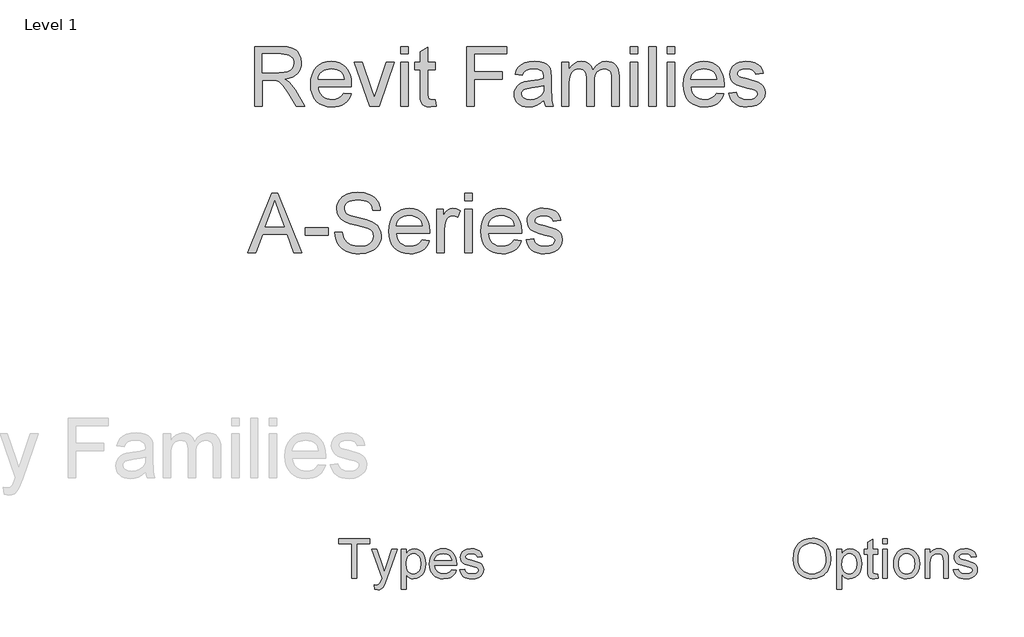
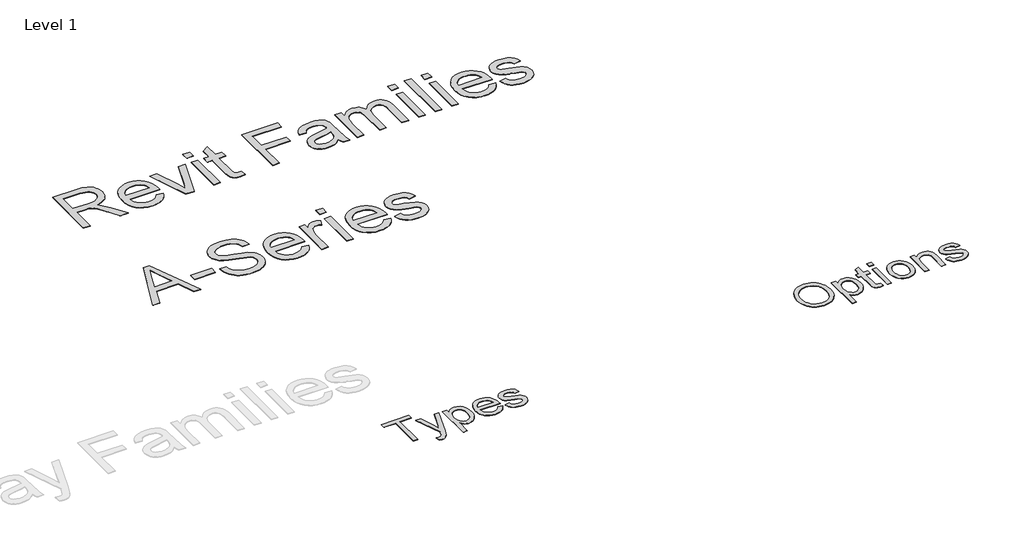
# One storey, part 9 of 9: 3 proxies.
"""IFC4 building model written with IfcOpenShell, lengths in millimetres."""

from ifc_helpers import new_model, si_unit, origin, origin_with_axes, place, context, project, spatial, polyline, outline, extrude, element, save

model = new_model("IFC4")

# Units and contexts
model_context = context("Model", 3, world=origin())
ifc_project = project(units=[si_unit("LENGTHUNIT", "METRE", prefix="MILLI")], contexts=[model_context])

# Site, building, storey
site = spatial("IfcSite", under=ifc_project)
building = spatial("IfcBuilding", under=site)
storey = spatial("IfcBuildingStorey", under=building, Name="Level 1", Elevation=0.0)

# Proxies
placement = place(None, origin())
element("IfcBuildingElementProxy", 1, Name="400mm Arial", ObjectType="400mm Arial", at=placement, inside=storey, context=model_context, shape_type="SweptSolid", body=[
    extrude(outline(polyline([(-10345.9583027, 17351.3054836), (-10345.9583027, 17694.0933624), (-10474.5037572, 17694.0933624), (-10474.5037572, 17743.0630593), (-10168.4431512, 17743.0630593), (-10168.4431512, 17694.0933624), (-10296.9886057, 17694.0933624), (-10296.9886057, 17351.3054836), (-10345.9583027, 17351.3054836)])), origin_with_axes(), (0.0, 0.0, 1.0), 5.0),
    extrude(outline(polyline([(-10119.4734542, 17241.1236654), (-10125.5946663, 17288.2761275), (-10100.7272421, 17283.9721502), (-10087.6479334, 17285.3231209), (-10077.4857648, 17289.3760328), (-10063.2348179, 17304.4399533), (-10049.8446663, 17340.4977184), (-10046.0189088, 17352.3575669), (-10150.0795148, 17639.0024533), (-10098.4317875, 17639.0024533), (-10043.2452345, 17479.2770745), (-10024.0208027, 17415.386923), (-10004.7963709, 17471.8168472), (-9948.0795148, 17639.0024533), (-9896.8143633, 17639.0024533), (-9996.9535679, 17344.4191199), (-10022.9687194, 17280.5289684), (-10036.2871379, 17260.1328983), (-10051.3749694, 17246.0015063), (-10068.9017213, 17237.7522165), (-10089.5369012, 17235.0024533), (-10119.4734542, 17241.1236654)])), origin_with_axes(), (0.0, 0.0, 1.0), 5.0),
    extrude(outline(polyline([(-9856.261333, 17241.1236654), (-9856.261333, 17639.0024533), (-9807.291636, 17639.0024533), (-9807.291636, 17590.9891957), (-9791.3190982, 17614.6730262), (-9773.4336815, 17631.590048), (-9752.5833027, 17641.740261), (-9727.7158785, 17645.1236654), (-9694.5991644, 17640.3892904), (-9665.6429618, 17626.1861654), (-9642.0667307, 17603.3750858), (-9625.0899315, 17572.8168472), (-9614.832119, 17536.7351711), (-9611.4128482, 17497.353779), (-9615.2744722, 17455.4736891), (-9626.8593444, 17418.0171313), (-9645.7968444, 17386.885029), (-9671.7163519, 17363.9783055), (-9701.9039703, 17349.88278), (-9733.6458027, 17345.1842715), (-9756.1579949, 17348.328566), (-9776.2551777, 17357.7614495), (-9793.4591313, 17372.000441), (-9807.291636, 17389.5630593), (-9807.291636, 17241.1236654), (-9856.261333, 17241.1236654)]), holes=[polyline([(-9807.291636, 17492.8585139), (-9801.9953529, 17448.9579457), (-9795.374999, 17431.9572355), (-9786.1065035, 17418.2562411), (-9762.6617828, 17400.1795366), (-9749.2447314, 17395.6603605), (-9734.697886, 17394.1539684), (-9719.9418195, 17395.7141602), (-9706.2796805, 17400.3947355), (-9682.2371853, 17419.1170366), (-9672.6757802, 17433.3141839), (-9665.8462052, 17450.9425574), (-9660.3825451, 17496.4929836), (-9665.7146947, 17540.1544419), (-9672.3798818, 17557.2866625), (-9681.7111436, 17571.2865442), (-9705.1199978, 17589.9371124), (-9718.3846166, 17594.5997544), (-9732.6893633, 17596.1539684), (-9746.9492769, 17594.5011216), (-9760.3663283, 17589.5425811), (-9784.6718444, 17569.7084192), (-9794.5680032, 17554.9882191), (-9801.6366881, 17537.2731682), (-9805.8778991, 17516.5632665), (-9807.291636, 17492.8585139)])]), origin_with_axes(), (0.0, 0.0, 1.0), 5.0),
    extrude(outline(polyline([(-9354.8958027, 17437.0024533), (-9306.8825451, 17430.8812411), (-9314.2441396, 17411.6508316), (-9324.1821427, 17394.7039211), (-9336.6965544, 17380.0405096), (-9351.7873747, 17367.6605972), (-9369.2991822, 17357.8272047), (-9389.0765555, 17350.8033529), (-9435.4279997, 17345.1842715), (-9465.8128837, 17347.6082475), (-9492.8860963, 17354.8801758), (-9516.6476375, 17367.0000563), (-9537.0975072, 17383.9678889), (-9553.5422871, 17405.3114317), (-9565.2885584, 17430.5584429), (-9572.3363212, 17459.7089223), (-9574.6855754, 17492.7628699), (-9572.3124102, 17526.937645), (-9565.1929144, 17557.0595082), (-9553.3270882, 17583.1284594), (-9536.7149315, 17605.1444987), (-9516.3188614, 17622.6353841), (-9493.1012951, 17635.1288737), (-9467.0622326, 17642.6249675), (-9438.2016739, 17645.1236654), (-9410.2706547, 17642.6309452), (-9385.0116881, 17635.1527847), (-9362.4247741, 17622.6891839), (-9342.5099125, 17605.2401427), (-9326.2534317, 17583.2719253), (-9314.6416597, 17557.2507961), (-9307.6745965, 17527.1767549), (-9305.3522421, 17493.0498018), (-9305.6391739, 17479.8509381), (-9525.7158785, 17479.8509381), (-9522.8794379, 17460.3096858), (-9517.2394343, 17443.1953983), (-9508.7958678, 17428.5080759), (-9497.5487383, 17416.2477184), (-9469.1305328, 17399.6774059), (-9434.4715603, 17394.1539684), (-9408.4085868, 17396.7124438), (-9386.4583027, 17404.3878699), (-9368.620708, 17417.6584665), (-9354.8958027, 17437.0024533)]), holes=[polyline([(-9525.7158785, 17528.8206351), (-9354.3219391, 17528.8206351), (-9360.9452819, 17554.6923207), (-9373.9289466, 17573.199423), (-9387.2832317, 17583.2420366), (-9402.4786625, 17590.4153321), (-9438.3929618, 17596.1539684), (-9471.4020764, 17591.5750148), (-9498.6964656, 17577.838154), (-9517.6698321, 17556.4258671), (-9525.7158785, 17528.8206351)])]), origin_with_axes(), (0.0, 0.0, 1.0), 5.0),
    extrude(outline(polyline([(-9274.7461815, 17437.0024533), (-9225.7764845, 17443.1236654), (-9218.0532364, 17422.1776427), (-9203.1088709, 17406.7789684), (-9180.847744, 17397.3102184), (-9151.1742118, 17394.1539684), (-9121.8593444, 17397.0471976), (-9101.2480754, 17405.7268851), (-9089.0534732, 17418.3040631), (-9084.9886057, 17432.8897639), (-9089.0773841, 17445.371298), (-9101.3437194, 17454.8878699), (-9151.7480754, 17468.8518851), (-9225.4895527, 17492.8106919), (-9244.1520764, 17504.8498728), (-9257.6737383, 17520.7865442), (-9265.8871616, 17539.6044893), (-9268.6249694, 17560.2874911), (-9266.4251588, 17579.2608576), (-9259.8257269, 17596.775654), (-9249.4244485, 17612.1384618), (-9235.8190982, 17624.6558624), (-9204.6869959, 17639.1459192), (-9162.5558406, 17645.1236654), (-9130.6824978, 17642.7206114), (-9102.9696663, 17635.5114495), (-9080.6846285, 17624.2015536), (-9065.0946663, 17609.496298), (-9054.7651209, 17590.3077326), (-9048.261333, 17565.5479078), (-9097.23103, 17559.4266957), (-9103.4120196, 17574.8373254), (-9115.6424883, 17586.4461086), (-9134.0419911, 17593.7270035), (-9158.730083, 17596.1539684), (-9186.8494012, 17593.8346029), (-9205.5956133, 17586.8765063), (-9216.1403576, 17576.8338927), (-9219.6552724, 17565.260976), (-9213.8209921, 17551.010029), (-9195.5529997, 17540.2022639), (-9153.3740224, 17529.7770745), (-9081.4976019, 17506.7268851), (-9062.51228, 17495.7039211), (-9048.1178671, 17480.6160896), (-9039.0436483, 17461.4155688), (-9036.0189088, 17438.0545366), (-9039.56969, 17413.9044419), (-9050.2220338, 17391.1890063), (-9067.5694533, 17371.6895982), (-9091.2054618, 17357.1875858), (-9119.7551777, 17348.1851), (-9151.8437194, 17345.1842715), (-9178.1996024, 17346.630886), (-9201.2199031, 17350.9707298), (-9220.9046214, 17358.2038027), (-9237.2537572, 17368.3301048), (-9250.6080423, 17381.3018141), (-9261.308208, 17397.0711086), (-9269.3542544, 17415.6379883), (-9274.7461815, 17437.0024533)])), origin_with_axes(), (0.0, 0.0, 1.0), 5.0),
])
element("IfcBuildingElementProxy", 2, Name="400mm Arial", ObjectType="400mm Arial", at=placement, inside=storey, context=model_context, shape_type="SweptSolid", body=[
    extrude(outline(polyline([(-5962.261333, 17542.0194987), (-5958.9974836, 17587.9704339), (-5949.2059353, 17628.6489968), (-5932.8866881, 17664.0551876), (-5910.0397421, 17694.1890063), (-5882.0340011, 17718.2494348), (-5850.238369, 17735.4354552), (-5814.6528458, 17745.7470674), (-5775.2774315, 17749.1842715), (-5748.9215484, 17747.57028), (-5723.892725, 17742.7283055), (-5700.1909613, 17734.6583482), (-5677.8162572, 17723.3604078), (-5657.3962762, 17709.1752161), (-5639.5586815, 17692.4435044), (-5624.3034732, 17673.1652729), (-5611.6306512, 17651.3405215), (-5601.671726, 17627.4654031), (-5594.558208, 17602.0360707), (-5588.8673936, 17546.5147639), (-5594.8570953, 17490.2522165), (-5602.3442224, 17464.4701971), (-5612.8262004, 17440.2543472), (-5626.0549528, 17418.2442857), (-5641.7824031, 17399.0796313), (-5660.0085513, 17382.7603841), (-5680.7333974, 17369.2865442), (-5726.4153339, 17351.2098396), (-5775.5643633, 17345.1842715), (-5802.3805328, 17346.8490738), (-5827.7381322, 17351.8434807), (-5851.6371616, 17360.1674923), (-5874.0776209, 17371.8211086), (-5894.473691, 17386.3530096), (-5912.2395527, 17403.3118756), (-5927.3752061, 17422.6977066), (-5939.8806512, 17444.5105025), (-5956.6661625, 17491.91403), (-5962.261333, 17542.0194987)]), holes=[polyline([(-5913.291636, 17541.541279), (-5910.843749, 17509.0761393), (-5903.5000877, 17480.2574249), (-5891.2606524, 17455.0851356), (-5874.1254429, 17433.5592715), (-5853.2959862, 17416.3194514), (-5829.9738093, 17404.0052942), (-5804.1589123, 17396.6167999), (-5775.8512951, 17394.1539684), (-5747.0594805, 17396.6407108), (-5720.9397184, 17404.1009381), (-5697.4920089, 17416.5346502), (-5676.7163519, 17433.9418472), (-5659.7066751, 17455.92202), (-5647.5569059, 17482.0746597), (-5640.2670444, 17512.3997662), (-5637.8370906, 17546.8973396), (-5641.9976019, 17590.2479552), (-5654.479136, 17627.7164684), (-5674.9588946, 17658.3583955), (-5703.1140792, 17681.2292525), (-5737.0796332, 17695.468244), (-5774.9904997, 17700.2145745), (-5802.3147776, 17697.9280866), (-5827.6663993, 17691.0686228), (-5851.0453647, 17679.6361831), (-5872.4516739, 17663.6307677), (-5890.3191573, 17642.2812471), (-5903.0816455, 17614.8164921), (-5910.7391384, 17581.2365027), (-5913.291636, 17541.541279)])]), origin_with_axes(), (0.0, 0.0, 1.0), 5.0),
    extrude(outline(polyline([(-5527.6552724, 17241.1236654), (-5527.6552724, 17639.0024533), (-5478.6855754, 17639.0024533), (-5478.6855754, 17590.9891957), (-5462.7130375, 17614.6730262), (-5444.8276209, 17631.590048), (-5423.9772421, 17641.740261), (-5399.1098179, 17645.1236654), (-5365.9931038, 17640.3892904), (-5337.0369012, 17626.1861654), (-5313.4606701, 17603.3750858), (-5296.4838709, 17572.8168472), (-5286.2260584, 17536.7351711), (-5282.8067875, 17497.353779), (-5286.6684116, 17455.4736891), (-5298.2532838, 17418.0171313), (-5317.1907838, 17386.885029), (-5343.1102913, 17363.9783055), (-5373.2979097, 17349.88278), (-5405.0397421, 17345.1842715), (-5427.5519343, 17348.328566), (-5447.6491171, 17357.7614495), (-5464.8530707, 17372.000441), (-5478.6855754, 17389.5630593), (-5478.6855754, 17241.1236654), (-5527.6552724, 17241.1236654)]), holes=[polyline([(-5478.6855754, 17492.8585139), (-5473.3892923, 17448.9579457), (-5466.7689384, 17431.9572355), (-5457.5004429, 17418.2562411), (-5434.0557222, 17400.1795366), (-5420.6386708, 17395.6603605), (-5406.0918254, 17394.1539684), (-5391.3357589, 17395.7141602), (-5377.6736199, 17400.3947355), (-5353.6311247, 17419.1170366), (-5344.0697196, 17433.3141839), (-5337.2401446, 17450.9425574), (-5331.7764845, 17496.4929836), (-5337.1086341, 17540.1544419), (-5343.7738212, 17557.2866625), (-5353.105083, 17571.2865442), (-5376.5139372, 17589.9371124), (-5389.778556, 17594.5997544), (-5404.0833027, 17596.1539684), (-5418.3432163, 17594.5011216), (-5431.7602677, 17589.5425811), (-5456.0657838, 17569.7084192), (-5465.9619426, 17554.9882191), (-5473.0306275, 17537.2731682), (-5477.2718384, 17516.5632665), (-5478.6855754, 17492.8585139)])]), origin_with_axes(), (0.0, 0.0, 1.0), 5.0),
    extrude(outline(polyline([(-5123.6552724, 17392.1454457), (-5117.5340603, 17349.8708245), (-5154.1656891, 17345.1842715), (-5177.6701872, 17347.2167052), (-5195.1969391, 17353.3140063), (-5207.5828292, 17362.7110233), (-5215.6647421, 17374.6426048), (-5220.1121853, 17395.1343188), (-5221.5946663, 17430.2117336), (-5221.5946663, 17590.0327563), (-5258.3219391, 17590.0327563), (-5258.3219391, 17639.0024533), (-5221.5946663, 17639.0024533), (-5221.5946663, 17708.918173), (-5172.6249694, 17737.7069987), (-5172.6249694, 17639.0024533), (-5123.6552724, 17639.0024533), (-5123.6552724, 17590.0327563), (-5172.6249694, 17590.0327563), (-5172.6249694, 17431.6463927), (-5170.042583, 17406.3963927), (-5161.6737383, 17397.4536843), (-5144.9838709, 17394.1539684), (-5123.6552724, 17392.1454457)])), origin_with_axes(), (0.0, 0.0, 1.0), 5.0),
    extrude(outline(polyline([(-5074.6855754, 17351.3054836), (-5074.6855754, 17639.0024533), (-5025.7158785, 17639.0024533), (-5025.7158785, 17351.3054836), (-5074.6855754, 17351.3054836)])), origin_with_axes(), (0.0, 0.0, 1.0), 5.0),
    extrude(outline(polyline([(-5074.6855754, 17694.0933624), (-5074.6855754, 17743.0630593), (-5025.7158785, 17743.0630593), (-5025.7158785, 17694.0933624), (-5074.6855754, 17694.0933624)])), origin_with_axes(), (0.0, 0.0, 1.0), 5.0),
    extrude(outline(polyline([(-4964.5037572, 17495.1539684), (-4961.8556157, 17532.4132606), (-4953.911191, 17564.5197355), (-4940.6704831, 17591.4733931), (-4922.1334921, 17613.2742336), (-4903.4709684, 17627.20836), (-4882.871655, 17637.1613074), (-4860.3355518, 17643.1330759), (-4835.8626588, 17645.1236654), (-4808.8462348, 17642.6996893), (-4784.4181749, 17635.427761), (-4762.5784791, 17623.3078806), (-4743.3271474, 17606.340048), (-4727.6146415, 17585.0981268), (-4716.391423, 17560.1559807), (-4709.6574919, 17531.5136098), (-4707.4128482, 17499.1710139), (-4711.3820716, 17449.6991862), (-4723.2897421, 17412.0393851), (-4742.7891502, 17383.8363785), (-4769.5335868, 17362.7349343), (-4801.2993302, 17349.5719372), (-4835.8626588, 17345.1842715), (-4863.273614, 17347.5992809), (-4887.9288283, 17354.8443093), (-4909.8283015, 17366.9193567), (-4928.9720338, 17383.824423), (-4944.5171628, 17405.2725764), (-4955.6208264, 17430.9768851), (-4962.2830245, 17460.9373491), (-4964.5037572, 17495.1539684)]), holes=[polyline([(-4915.5340603, 17495.2496124), (-4914.1173344, 17471.4970378), (-4909.8671569, 17450.9306019), (-4902.7835276, 17433.5503048), (-4892.8664466, 17419.3561465), (-4880.8033548, 17408.3301936), (-4867.2816929, 17400.4545129), (-4852.3014608, 17395.7291045), (-4835.8626588, 17394.1539684), (-4819.5075451, 17395.7380712), (-4804.5870906, 17400.4903794), (-4791.1012951, 17408.4108931), (-4779.0501588, 17419.4996124), (-4769.1330778, 17433.8342478), (-4762.0494485, 17451.4925101), (-4757.799271, 17472.4743993), (-4756.3825451, 17496.7799154), (-4757.8082376, 17519.7792939), (-4762.085315, 17539.8077326), (-4769.2137774, 17556.8652314), (-4779.1936247, 17570.9517904), (-4791.2895941, 17581.9777433), (-4804.766423, 17589.8534239), (-4819.6241112, 17594.5788323), (-4835.8626588, 17596.1539684), (-4852.3014608, 17594.58481), (-4867.2816929, 17589.8773349), (-4880.8033548, 17582.031543), (-4892.8664466, 17571.0474343), (-4902.7835276, 17556.8951202), (-4909.8671569, 17539.5447118), (-4914.1173344, 17518.9962092), (-4915.5340603, 17495.2496124)])]), origin_with_axes(), (0.0, 0.0, 1.0), 5.0),
    extrude(outline(polyline([(-4652.3219391, 17351.3054836), (-4652.3219391, 17639.0024533), (-4603.3522421, 17639.0024533), (-4603.3522421, 17598.8319987), (-4586.3395764, 17619.0846029), (-4565.9076398, 17633.5507487), (-4542.0564324, 17642.2304362), (-4514.7859542, 17645.1236654), (-4490.647815, 17642.7923444), (-4468.5421095, 17635.7983813), (-4450.1067402, 17625.0145271), (-4436.9796095, 17611.3135328), (-4428.0727677, 17594.7312648), (-4422.2982648, 17575.3035896), (-4419.7158785, 17527.9598396), (-4419.7158785, 17351.3054836), (-4468.6855754, 17351.3054836), (-4468.6855754, 17521.3604078), (-4470.0963235, 17546.6821408), (-4474.3285679, 17564.6871124), (-4482.1355044, 17577.5870887), (-4494.2703292, 17587.5938358), (-4509.8244249, 17594.0139353), (-4527.8891739, 17596.1539684), (-4556.5704002, 17591.3478605), (-4581.0193822, 17576.9295366), (-4590.7900084, 17565.1593543), (-4597.7690271, 17549.0732393), (-4601.9564384, 17528.6711914), (-4603.3522421, 17503.9532108), (-4603.3522421, 17351.3054836), (-4652.3219391, 17351.3054836)])), origin_with_axes(), (0.0, 0.0, 1.0), 5.0),
    extrude(outline(polyline([(-4370.7461815, 17437.0024533), (-4321.7764845, 17443.1236654), (-4314.0532364, 17422.1776427), (-4299.1088709, 17406.7789684), (-4276.847744, 17397.3102184), (-4247.1742118, 17394.1539684), (-4217.8593444, 17397.0471976), (-4197.2480754, 17405.7268851), (-4185.0534732, 17418.3040631), (-4180.9886057, 17432.8897639), (-4185.0773841, 17445.371298), (-4197.3437194, 17454.8878699), (-4247.7480754, 17468.8518851), (-4321.4895527, 17492.8106919), (-4340.1520764, 17504.8498728), (-4353.6737383, 17520.7865442), (-4361.8871616, 17539.6044893), (-4364.6249694, 17560.2874911), (-4362.4251588, 17579.2608576), (-4355.8257269, 17596.775654), (-4345.4244485, 17612.1384618), (-4331.8190982, 17624.6558624), (-4300.6869959, 17639.1459192), (-4258.5558406, 17645.1236654), (-4226.6824978, 17642.7206114), (-4198.9696663, 17635.5114495), (-4176.6846285, 17624.2015536), (-4161.0946663, 17609.496298), (-4150.7651209, 17590.3077326), (-4144.261333, 17565.5479078), (-4193.23103, 17559.4266957), (-4199.4120196, 17574.8373254), (-4211.6424883, 17586.4461086), (-4230.0419911, 17593.7270035), (-4254.730083, 17596.1539684), (-4282.8494012, 17593.8346029), (-4301.5956133, 17586.8765063), (-4312.1403576, 17576.8338927), (-4315.6552724, 17565.260976), (-4309.8209921, 17551.010029), (-4291.5529997, 17540.2022639), (-4249.3740224, 17529.7770745), (-4177.4976019, 17506.7268851), (-4158.51228, 17495.7039211), (-4144.1178671, 17480.6160896), (-4135.0436483, 17461.4155688), (-4132.0189088, 17438.0545366), (-4135.56969, 17413.9044419), (-4146.2220338, 17391.1890063), (-4163.5694533, 17371.6895982), (-4187.2054618, 17357.1875858), (-4215.7551777, 17348.1851), (-4247.8437194, 17345.1842715), (-4274.1996024, 17346.630886), (-4297.2199031, 17350.9707298), (-4316.9046214, 17358.2038027), (-4333.2537572, 17368.3301048), (-4346.6080423, 17381.3018141), (-4357.308208, 17397.0711086), (-4365.3542544, 17415.6379883), (-4370.7461815, 17437.0024533)])), origin_with_axes(), (0.0, 0.0, 1.0), 5.0),
])
element("IfcBuildingElementProxy", 3, Name="600mm Arial", ObjectType="600mm Arial", at=placement, inside=storey, context=model_context, shape_type="SweptSolid", body=[
    extrude(outline(polyline([(-11309.2935955, 22041.6162982), (-11309.2935955, 22632.385529), (-11054.7262878, 22632.385529), (-10986.3068167, 22628.401154), (-10936.5291724, 22616.448029), (-10917.3194369, 22606.9468271), (-10900.1469609, 22594.3807213), (-10885.0117446, 22578.7497117), (-10871.9137878, 22560.0537982), (-10861.3443768, 22539.2980891), (-10853.7947974, 22517.4876924), (-10847.755134, 22470.7028367), (-10850.2566364, 22440.3602886), (-10857.7611436, 22412.5057213), (-10870.2686556, 22387.1391347), (-10887.7791724, 22364.260529), (-10910.5180547, 22344.6000722), (-10938.7106628, 22328.8879328), (-10972.356997, 22317.1241107), (-11011.4570571, 22309.3086059), (-10987.1181148, 22293.4071636), (-10969.4859032, 22277.7220674), (-10909.630134, 22201.7124521), (-10811.1205186, 22041.6162982), (-10896.9378263, 22041.6162982), (-10973.8128263, 22164.0682213), (-11029.3416724, 22245.1259136), (-11049.9847013, 22268.7617309), (-11068.3560955, 22283.4191828), (-11103.4762878, 22297.4816828), (-11146.3128263, 22300.0778367), (-11235.4474417, 22300.0778367), (-11235.4474417, 22041.6162982), (-11309.2935955, 22041.6162982)]), holes=[polyline([(-11235.4474417, 22373.9239905), (-11070.1589801, 22373.9239905), (-11022.6890282, 22376.5381732), (-10985.8560955, 22384.3807213), (-10958.1277301, 22397.9744713), (-10937.9714801, 22417.8422597), (-10925.6938359, 22441.8747117), (-10921.6012878, 22467.9624521), (-10923.5529104, 22486.8476684), (-10929.4077782, 22503.9840867), (-10939.1658912, 22519.3717069), (-10952.8272494, 22533.010529), (-10970.7073575, 22544.1793992), (-10993.1217205, 22552.1571636), (-11020.0703383, 22556.9438222), (-11051.5532109, 22558.5393751), (-11235.4474417, 22558.5393751), (-11235.4474417, 22373.9239905)])]), origin_with_axes(), (0.0, 0.0, 1.0), 5.0),
    extrude(outline(polyline([(-10424.005134, 22170.8470674), (-10351.6012878, 22161.6162982), (-10362.7025498, 22132.6168992), (-10377.6890282, 22107.0610097), (-10396.5607229, 22084.9486299), (-10419.317634, 22066.2797597), (-10445.7253864, 22051.4510338), (-10475.5496051, 22040.8590867), (-10508.7902902, 22034.5039184), (-10545.4474417, 22032.385529), (-10591.2677542, 22036.0408775), (-10632.0940763, 22047.0069232), (-10667.926408, 22065.283666), (-10698.7647494, 22090.8711059), (-10723.5634273, 22123.0571035), (-10741.2767686, 22161.1295194), (-10751.9047734, 22205.0883535), (-10755.4474417, 22254.9336059), (-10751.8687157, 22306.4690626), (-10741.1325378, 22351.8927405), (-10723.238908, 22391.2046396), (-10698.1878263, 22424.4047597), (-10667.4306148, 22450.7809617), (-10632.4185955, 22469.6211059), (-10593.1517686, 22480.9251924), (-10549.630134, 22484.6932213), (-10507.5102422, 22480.9342069), (-10469.4197974, 22469.6571636), (-10435.3587998, 22450.8620915), (-10405.3272494, 22424.5489905), (-10380.8125258, 22391.4209857), (-10363.302009, 22352.1812021), (-10352.7956989, 22306.8296396), (-10349.2935955, 22255.3662982), (-10349.7262878, 22235.4624521), (-10681.6012878, 22235.4624521), (-10677.3239441, 22205.994303), (-10668.8188359, 22180.1860097), (-10656.0859633, 22158.0375722), (-10639.1253263, 22139.5489905), (-10618.8744248, 22124.9726684), (-10596.270759, 22114.5610097), (-10571.3143287, 22108.3140146), (-10544.005134, 22106.2316828), (-10504.7022494, 22110.0898559), (-10471.6012878, 22121.6643751), (-10444.7022494, 22141.6763944), (-10424.005134, 22170.8470674)]), holes=[polyline([(-10681.6012878, 22309.3086059), (-10423.1397494, 22309.3086059), (-10433.1277301, 22348.323029), (-10441.7184753, 22363.6655771), (-10452.7070571, 22376.2316828), (-10472.8452782, 22391.3759136), (-10495.7599417, 22402.1932213), (-10521.4510474, 22408.6836059), (-10549.9185955, 22410.8470674), (-10575.8846412, 22409.1208054), (-10599.6962398, 22403.9420194), (-10621.3533912, 22395.3107093), (-10640.8560955, 22383.2268751), (-10657.2217806, 22368.2494112), (-10669.4678744, 22350.9372117), (-10677.5943768, 22331.2902766), (-10681.6012878, 22309.3086059)])]), origin_with_axes(), (0.0, 0.0, 1.0), 5.0),
    extrude(outline(polyline([(-10169.005134, 22041.6162982), (-10321.6012878, 22475.4624521), (-10243.4282109, 22475.4624521), (-10150.9762878, 22215.5586059), (-10123.1397494, 22128.1547597), (-10095.880134, 22210.6547597), (-10002.8512878, 22475.4624521), (-9924.6782109, 22475.4624521), (-10075.3993648, 22041.6162982), (-10169.005134, 22041.6162982)])), origin_with_axes(), (0.0, 0.0, 1.0), 5.0),
    extrude(outline(polyline([(-9860.0628263, 22041.6162982), (-9860.0628263, 22475.4624521), (-9786.2166724, 22475.4624521), (-9786.2166724, 22041.6162982), (-9860.0628263, 22041.6162982)])), origin_with_axes(), (0.0, 0.0, 1.0), 5.0),
    extrude(outline(polyline([(-9860.0628263, 22558.5393751), (-9860.0628263, 22632.385529), (-9786.2166724, 22632.385529), (-9786.2166724, 22558.5393751), (-9860.0628263, 22558.5393751)])), origin_with_axes(), (0.0, 0.0, 1.0), 5.0),
    extrude(outline(polyline([(-9518.5243648, 22103.2028367), (-9509.2935955, 22039.4528367), (-9564.5339801, 22032.385529), (-9599.9786917, 22035.4504328), (-9626.4089801, 22044.6451444), (-9645.0868648, 22058.8158174), (-9657.2743648, 22076.8086059), (-9663.9810955, 22107.7100482), (-9666.2166724, 22160.6066828), (-9666.2166724, 22401.6162982), (-9721.6012878, 22401.6162982), (-9721.6012878, 22475.4624521), (-9666.2166724, 22475.4624521), (-9666.2166724, 22580.8951444), (-9592.3705186, 22624.3086059), (-9592.3705186, 22475.4624521), (-9518.5243648, 22475.4624521), (-9518.5243648, 22401.6162982), (-9592.3705186, 22401.6162982), (-9592.3705186, 22162.7701444), (-9588.4762878, 22124.6932213), (-9575.8560955, 22111.2076444), (-9565.2010474, 22107.4756732), (-9550.6878263, 22106.2316828), (-9518.5243648, 22103.2028367)])), origin_with_axes(), (0.0, 0.0, 1.0), 5.0),
    extrude(outline(polyline([(-9204.6782109, 22041.6162982), (-9204.6782109, 22632.385529), (-8807.755134, 22632.385529), (-8807.755134, 22558.5393751), (-9130.8320571, 22558.5393751), (-9130.8320571, 22383.1547597), (-8853.9089801, 22383.1547597), (-8853.9089801, 22309.3086059), (-9130.8320571, 22309.3086059), (-9130.8320571, 22041.6162982), (-9204.6782109, 22041.6162982)])), origin_with_axes(), (0.0, 0.0, 1.0), 5.0),
    extrude(outline(polyline([(-8438.5243648, 22097.0009136), (-8473.8068167, 22066.7485097), (-8510.1349417, 22046.9528367), (-8548.3380667, 22036.0273559), (-8589.2455186, 22032.385529), (-8622.1256268, 22034.5760338), (-8650.958259, 22041.1475482), (-8675.7434152, 22052.1000722), (-8696.4810955, 22067.4336059), (-8712.855795, 22086.1745915), (-8724.552009, 22107.3494713), (-8731.5697373, 22130.9582453), (-8733.9089801, 22157.0009136), (-8730.3753263, 22187.6138944), (-8719.7743648, 22215.4143751), (-8703.4222013, 22239.2124521), (-8682.6349417, 22257.8182213), (-8658.2058551, 22271.8807213), (-8630.9282109, 22282.0489905), (-8567.0339801, 22293.1547597), (-8491.5291724, 22304.8374521), (-8438.9570571, 22318.5393751), (-8438.5243648, 22334.9816828), (-8443.6084994, 22367.9384136), (-8449.9636676, 22380.1439424), (-8458.8609032, 22389.5009136), (-8474.239509, 22398.8398559), (-8492.9714801, 22405.510529), (-8540.4955186, 22410.8470674), (-8584.4859032, 22407.2953847), (-8615.2070571, 22396.6403367), (-8636.1565763, 22376.9348078), (-8650.8320571, 22346.2316828), (-8724.6782109, 22355.4624521), (-8711.8597013, 22395.8470674), (-8692.7310955, 22427.5778367), (-8665.5075378, 22451.8446636), (-8628.4041724, 22469.8374521), (-8583.0255667, 22480.979279), (-8530.9762878, 22484.6932213), (-8481.0544128, 22481.4119713), (-8441.4810955, 22471.5682213), (-8411.6433551, 22456.7665386), (-8390.9282109, 22438.6114905), (-8377.1902301, 22416.1655771), (-8368.2839801, 22388.4912982), (-8364.6782109, 22323.8759136), (-8364.6782109, 22232.0009136), (-8360.9282109, 22103.7076444), (-8355.3753263, 22071.994904), (-8346.2166724, 22041.6162982), (-8420.0628263, 22041.6162982), (-8431.8897494, 22067.2893751), (-8438.5243648, 22097.0009136)]), holes=[polyline([(-8438.5243648, 22244.6932213), (-8488.1397494, 22232.3975482), (-8557.6589801, 22222.0489905), (-8621.192634, 22210.0778367), (-8637.7250859, 22201.8927405), (-8649.9666724, 22190.6066828), (-8657.5387878, 22177.0850482), (-8660.0628263, 22162.1932213), (-8654.5640282, 22140.2340867), (-8638.067634, 22122.2412982), (-8610.9342205, 22110.2340867), (-8573.5243648, 22106.2316828), (-8533.8609032, 22110.6487501), (-8498.8128263, 22123.8999521), (-8470.3993648, 22143.4251924), (-8450.6397494, 22166.6643751), (-8441.8777301, 22190.6066828), (-8438.9570571, 22223.7797597), (-8438.5243648, 22244.6932213)])]), origin_with_axes(), (0.0, 0.0, 1.0), 5.0),
    extrude(outline(polyline([(-8263.1397494, 22041.6162982), (-8263.1397494, 22475.4624521), (-8189.2935955, 22475.4624521), (-8189.2935955, 22404.0682213), (-8167.0820571, 22436.8626924), (-8138.5243648, 22462.5537982), (-8104.5940763, 22479.1583655), (-8066.2647494, 22484.6932213), (-8025.1950378, 22479.0501924), (-8007.7160715, 22471.9964064), (-7992.2743648, 22462.1211059), (-7967.6830186, 22435.0237501), (-7951.6012878, 22398.8759136), (-7924.6842205, 22436.4209857), (-7893.9810955, 22463.2388944), (-7859.4919128, 22479.3296396), (-7821.2166724, 22484.6932213), (-7791.653872, 22482.4621516), (-7765.7058551, 22475.7689424), (-7743.372622, 22464.6135939), (-7724.6541724, 22448.9961059), (-7709.856997, 22428.73619), (-7699.2875859, 22403.6535578), (-7692.9459393, 22373.7482093), (-7690.8320571, 22339.0201444), (-7690.8320571, 22041.6162982), (-7764.6782109, 22041.6162982), (-7764.6782109, 22307.2893751), (-7766.3909513, 22344.1223078), (-7771.5291724, 22368.948029), (-7781.1565763, 22385.9492309), (-7796.3368648, 22399.3086059), (-7815.8621051, 22407.9624521), (-7838.5243648, 22410.8470674), (-7859.4513479, 22408.9991107), (-7878.5303744, 22403.4552405), (-7895.7614441, 22394.2154569), (-7911.1445571, 22381.2797597), (-7923.7962998, 22364.2695434), (-7932.833259, 22342.8062021), (-7938.2554345, 22316.8897357), (-7940.0628263, 22286.5201444), (-7940.0628263, 22041.6162982), (-8013.9089801, 22041.6162982), (-8013.9089801, 22315.510529), (-8018.1818167, 22357.2653367), (-8031.0003263, 22387.0489905), (-8040.9116845, 22397.4606492), (-8053.5544128, 22404.8975482), (-8068.9285114, 22409.3596876), (-8087.0339801, 22410.8470674), (-8115.4834994, 22406.8807213), (-8141.6974417, 22394.9816828), (-8163.3320571, 22375.4384136), (-8178.0435955, 22348.5393751), (-8186.4810955, 22311.2196636), (-8189.2935955, 22260.4143751), (-8189.2935955, 22041.6162982), (-8263.1397494, 22041.6162982)])), origin_with_axes(), (0.0, 0.0, 1.0), 5.0),
    extrude(outline(polyline([(-7580.0628263, 22041.6162982), (-7580.0628263, 22475.4624521), (-7506.2166724, 22475.4624521), (-7506.2166724, 22041.6162982), (-7580.0628263, 22041.6162982)])), origin_with_axes(), (0.0, 0.0, 1.0), 5.0),
    extrude(outline(polyline([(-7580.0628263, 22558.5393751), (-7580.0628263, 22632.385529), (-7506.2166724, 22632.385529), (-7506.2166724, 22558.5393751), (-7580.0628263, 22558.5393751)])), origin_with_axes(), (0.0, 0.0, 1.0), 5.0),
    extrude(outline(polyline([(-7395.4474417, 22041.6162982), (-7395.4474417, 22632.385529), (-7321.6012878, 22632.385529), (-7321.6012878, 22041.6162982), (-7395.4474417, 22041.6162982)])), origin_with_axes(), (0.0, 0.0, 1.0), 5.0),
    extrude(outline(polyline([(-7210.8320571, 22041.6162982), (-7210.8320571, 22475.4624521), (-7136.9859032, 22475.4624521), (-7136.9859032, 22041.6162982), (-7210.8320571, 22041.6162982)])), origin_with_axes(), (0.0, 0.0, 1.0), 5.0),
    extrude(outline(polyline([(-7210.8320571, 22558.5393751), (-7210.8320571, 22632.385529), (-7136.9859032, 22632.385529), (-7136.9859032, 22558.5393751), (-7210.8320571, 22558.5393751)])), origin_with_axes(), (0.0, 0.0, 1.0), 5.0),
    extrude(outline(polyline([(-6722.4666724, 22170.8470674), (-6650.0628263, 22161.6162982), (-6661.1640883, 22132.6168992), (-6676.1505667, 22107.0610097), (-6695.0222614, 22084.9486299), (-6717.7791724, 22066.2797597), (-6744.1869248, 22051.4510338), (-6774.0111436, 22040.8590867), (-6807.2518287, 22034.5039184), (-6843.9089801, 22032.385529), (-6889.7292926, 22036.0408775), (-6930.5556148, 22047.0069232), (-6966.3879465, 22065.283666), (-6997.2262878, 22090.8711059), (-7022.0249657, 22123.0571035), (-7039.7383071, 22161.1295194), (-7050.3663119, 22205.0883535), (-7053.9089801, 22254.9336059), (-7050.3302542, 22306.4690626), (-7039.5940763, 22351.8927405), (-7021.7004465, 22391.2046396), (-6996.6493648, 22424.4047597), (-6965.8921532, 22450.7809617), (-6930.880134, 22469.6211059), (-6891.6133071, 22480.9251924), (-6848.0916724, 22484.6932213), (-6805.9717806, 22480.9342069), (-6767.8813359, 22469.6571636), (-6733.8203383, 22450.8620915), (-6703.7887878, 22424.5489905), (-6679.2740643, 22391.4209857), (-6661.7635474, 22352.1812021), (-6651.2572373, 22306.8296396), (-6647.755134, 22255.3662982), (-6648.1878263, 22235.4624521), (-6980.0628263, 22235.4624521), (-6975.7854825, 22205.994303), (-6967.2803744, 22180.1860097), (-6954.5475018, 22158.0375722), (-6937.5868648, 22139.5489905), (-6917.3359633, 22124.9726684), (-6894.7322974, 22114.5610097), (-6869.7758672, 22108.3140146), (-6842.4666724, 22106.2316828), (-6803.1637878, 22110.0898559), (-6770.0628263, 22121.6643751), (-6743.1637878, 22141.6763944), (-6722.4666724, 22170.8470674)]), holes=[polyline([(-6980.0628263, 22309.3086059), (-6721.6012878, 22309.3086059), (-6731.5892686, 22348.323029), (-6740.1800138, 22363.6655771), (-6751.1685955, 22376.2316828), (-6771.3068167, 22391.3759136), (-6794.2214801, 22402.1932213), (-6819.9125859, 22408.6836059), (-6848.380134, 22410.8470674), (-6874.3461797, 22409.1208054), (-6898.1577782, 22403.9420194), (-6919.8149297, 22395.3107093), (-6939.317634, 22383.2268751), (-6955.6833191, 22368.2494112), (-6967.9294128, 22350.9372117), (-6976.0559152, 22331.2902766), (-6980.0628263, 22309.3086059)])]), origin_with_axes(), (0.0, 0.0, 1.0), 5.0),
    extrude(outline(polyline([(-6601.6012878, 22170.8470674), (-6527.755134, 22180.0778367), (-6523.2929946, 22163.2388944), (-6516.1084994, 22148.4912982), (-6506.2016484, 22135.8350482), (-6493.5724417, 22125.2701444), (-6478.1848215, 22116.9408174), (-6460.0027301, 22110.9912982), (-6415.255134, 22106.2316828), (-6371.0484032, 22110.5946636), (-6353.8669128, 22116.0483896), (-6339.9666724, 22123.6836059), (-6321.5772494, 22142.6499521), (-6315.4474417, 22164.6451444), (-6316.988908, 22174.6150963), (-6321.6133071, 22183.4672597), (-6340.1109032, 22197.8182213), (-6367.7671532, 22207.1932213), (-6416.1205186, 22218.8759136), (-6483.5123455, 22238.3650963), (-6527.3224417, 22255.0057213), (-6555.4654705, 22273.1607694), (-6575.8560955, 22297.1932213), (-6588.2419128, 22325.5706251), (-6592.3705186, 22356.760529), (-6589.0532109, 22385.3723078), (-6579.1012878, 22411.7845674), (-6563.4161917, 22434.9516347), (-6542.8993648, 22453.8278367), (-6522.5087398, 22465.7088463), (-6495.9522494, 22475.6787982), (-6465.2491244, 22482.4396155), (-6432.4185955, 22484.6932213), (-6384.3536917, 22481.0694232), (-6342.5628263, 22470.198029), (-6308.9570571, 22453.1427405), (-6285.4474417, 22430.9672597), (-6269.8705186, 22402.0309617), (-6260.0628263, 22364.6932213), (-6333.9089801, 22355.4624521), (-6343.2298936, 22378.7016347), (-6361.6734032, 22396.2076444), (-6389.4197974, 22407.1872117), (-6426.6493648, 22410.8470674), (-6469.0532109, 22407.3494713), (-6497.3224417, 22396.8566828), (-6513.223884, 22381.7124521), (-6518.5243648, 22364.260529), (-6516.3248455, 22352.9023559), (-6509.7262878, 22342.7701444), (-6498.4402301, 22333.7196636), (-6482.1782109, 22326.4720674), (-6418.5724417, 22310.7509136), (-6310.1830186, 22275.9912982), (-6281.5532109, 22259.3687021), (-6259.8464801, 22236.6162982), (-6246.1625859, 22207.6619713), (-6241.6012878, 22172.4336059), (-6246.9558551, 22136.0153367), (-6263.0195571, 22101.760529), (-6289.1794128, 22072.3554809), (-6324.8224417, 22050.4864905), (-6367.8753263, 22036.9107694), (-6416.2647494, 22032.385529), (-6456.0093407, 22034.5670194), (-6490.723884, 22041.1114905), (-6520.4083792, 22052.0189424), (-6545.0628263, 22067.2893751), (-6565.2010474, 22086.8506732), (-6581.3368648, 22110.6307213), (-6593.4702782, 22138.6295194), (-6601.6012878, 22170.8470674)])), origin_with_axes(), (0.0, 0.0, 1.0), 5.0),
    extrude(outline(polyline([(-11378.0916724, 20583.1547597), (-11142.2743648, 21173.9239905), (-11079.3897494, 21173.9239905), (-10843.5724417, 20583.1547597), (-10921.6012878, 20583.1547597), (-10989.2455186, 20767.7701444), (-11232.5628263, 20767.7701444), (-11300.0628263, 20583.1547597), (-11378.0916724, 20583.1547597)]), holes=[polyline([(-11205.4474417, 20841.6162982), (-11016.2166724, 20841.6162982), (-11069.4378263, 20986.8566828), (-11110.8320571, 21100.0778367), (-11147.6109032, 20999.5489905), (-11205.4474417, 20841.6162982)])]), origin_with_axes(), (0.0, 0.0, 1.0), 5.0),
    extrude(outline(polyline([(-10810.8320571, 20758.5393751), (-10810.8320571, 20832.385529), (-10580.0628263, 20832.385529), (-10580.0628263, 20758.5393751), (-10810.8320571, 20758.5393751)])), origin_with_axes(), (0.0, 0.0, 1.0), 5.0),
    extrude(outline(polyline([(-10515.4474417, 20786.2316828), (-10441.6012878, 20786.2316828), (-10433.1277301, 20745.2521155), (-10417.8032109, 20712.3134136), (-10393.8969609, 20686.1715867), (-10359.6782109, 20665.5826444), (-10317.8512878, 20652.2232694), (-10271.1205186, 20647.7701444), (-10229.9786917, 20651.1415386), (-10193.9570571, 20661.2557213), (-10164.7683551, 20677.2653367), (-10144.1253263, 20698.323029), (-10131.8476821, 20722.4997117), (-10127.755134, 20747.8662982), (-10130.8200378, 20772.5838463), (-10140.0147494, 20793.948029), (-10158.692634, 20812.1751924), (-10190.2070571, 20827.4816828), (-10297.7310955, 20855.6787982), (-10368.3140282, 20874.338654), (-10413.4762878, 20892.0970674), (-10450.2371051, 20916.9408174), (-10476.2887878, 20947.0489905), (-10491.8116244, 20981.7725482), (-10496.9859032, 21020.4624521), (-10495.3858431, 21042.4531372), (-10490.5856628, 21063.713654), (-10482.5853623, 21084.2440025), (-10471.3849417, 21104.0441828), (-10457.1106027, 21122.307404), (-10439.8885474, 21138.2268751), (-10419.7187758, 21151.8025963), (-10396.6012878, 21163.0345674), (-10344.6421532, 21178.1247117), (-10287.130134, 21183.1547597), (-10224.8224417, 21177.8903367), (-10170.3032109, 21162.0970674), (-10146.4510474, 21150.3332453), (-10125.5195571, 21136.0994713), (-10107.5087398, 21119.3957453), (-10092.4185955, 21100.2220674), (-10080.3663119, 21079.1373319), (-10071.4690763, 21056.7004328), (-10065.7268888, 21032.9113703), (-10063.1397494, 21007.7701444), (-10136.9859032, 21007.7701444), (-10141.9258071, 21031.3338463), (-10150.5435955, 21051.8326444), (-10162.8392686, 21069.2665386), (-10178.8128263, 21083.635529), (-10198.7617446, 21094.8675001), (-10222.9834994, 21102.8903367), (-10251.4780907, 21107.7040386), (-10284.2455186, 21109.3086059), (-10318.0586196, 21107.7220674), (-10346.9498455, 21102.9624521), (-10370.9191965, 21095.0297597), (-10389.9666724, 21083.9239905), (-10404.4798936, 21070.5736299), (-10414.8464801, 21055.9071636), (-10421.0664321, 21039.9245915), (-10423.1397494, 21022.6259136), (-10417.2623455, 20994.2485097), (-10399.630134, 20971.4239905), (-10383.4402301, 20961.2737501), (-10357.9474417, 20951.0153367), (-10279.0532109, 20930.1739905), (-10197.6349417, 20910.3783174), (-10148.380134, 20893.1066828), (-10106.2827782, 20866.3158174), (-10090.0072373, 20850.5676203), (-10076.9137878, 20833.2509136), (-10066.8491845, 20814.4558415), (-10059.6601821, 20794.2725482), (-10053.9089801, 20749.7412982), (-10055.5631268, 20726.6418391), (-10060.5255667, 20704.2184617), (-10068.7962998, 20682.471166), (-10080.3753263, 20661.3999521), (-10095.0598215, 20641.8206251), (-10112.6469609, 20624.5489905), (-10133.1367446, 20609.5850482), (-10156.5291724, 20596.9287982), (-10182.1436556, 20586.8641948), (-10209.2996051, 20579.6751924), (-10268.2359032, 20573.9239905), (-10306.0108431, 20575.4744713), (-10340.5856628, 20580.1259136), (-10371.9603623, 20587.8783174), (-10400.1349417, 20598.7316828), (-10425.2806748, 20612.7040386), (-10447.5688359, 20629.8134136), (-10466.9994248, 20650.0598078), (-10483.5724417, 20673.4432213), (-10496.9228023, 20699.2064424), (-10506.6854224, 20726.5922597), (-10512.8603023, 20755.6006732), (-10515.4474417, 20786.2316828)])), origin_with_axes(), (0.0, 0.0, 1.0), 5.0),
    extrude(outline(polyline([(-9648.6205186, 20712.385529), (-9576.2166724, 20703.1547597), (-9587.3179345, 20674.1553607), (-9602.3044128, 20648.5994713), (-9621.1761075, 20626.4870915), (-9643.9330186, 20607.8182213), (-9670.340771, 20592.9894953), (-9700.1649898, 20582.3975482), (-9733.4056748, 20576.0423799), (-9770.0628263, 20573.9239905), (-9815.8831388, 20577.5793391), (-9856.7094609, 20588.5453847), (-9892.5417926, 20606.8221275), (-9923.380134, 20632.4095674), (-9948.1788119, 20664.595565), (-9965.8921532, 20702.6679809), (-9976.520158, 20746.626815), (-9980.0628263, 20796.4720674), (-9976.4841003, 20848.0075242), (-9965.7479224, 20893.4312021), (-9947.8542926, 20932.7431011), (-9922.8032109, 20965.9432213), (-9892.0459994, 20992.3194232), (-9857.0339801, 21011.1595674), (-9817.7671532, 21022.463654), (-9774.2455186, 21026.2316828), (-9732.1256268, 21022.4726684), (-9694.0351821, 21011.1956251), (-9659.9741845, 20992.400553), (-9629.942634, 20966.0874521), (-9605.4279104, 20932.9594472), (-9587.9173936, 20893.7196636), (-9577.4110835, 20848.3681011), (-9573.9089801, 20796.9047597), (-9574.3416724, 20777.0009136), (-9906.2166724, 20777.0009136), (-9901.9393287, 20747.5327646), (-9893.4342205, 20721.7244713), (-9880.7013479, 20699.5760338), (-9863.7407109, 20681.0874521), (-9843.4898095, 20666.5111299), (-9820.8861436, 20656.0994713), (-9795.9297133, 20649.8524761), (-9768.6205186, 20647.7701444), (-9729.317634, 20651.6283174), (-9696.2166724, 20663.2028367), (-9669.317634, 20683.2148559), (-9648.6205186, 20712.385529)]), holes=[polyline([(-9906.2166724, 20850.8470674), (-9647.755134, 20850.8470674), (-9657.7431148, 20889.8614905), (-9666.3338599, 20905.2040386), (-9677.3224417, 20917.7701444), (-9697.4606628, 20932.9143751), (-9720.3753263, 20943.7316828), (-9746.0664321, 20950.2220674), (-9774.5339801, 20952.385529), (-9800.5000258, 20950.659267), (-9824.3116244, 20945.4804809), (-9845.9687758, 20936.8491708), (-9865.4714801, 20924.7653367), (-9881.8371652, 20909.7878727), (-9894.083259, 20892.4756732), (-9902.2097614, 20872.8287381), (-9906.2166724, 20850.8470674)])]), origin_with_axes(), (0.0, 0.0, 1.0), 5.0),
    extrude(outline(polyline([(-9500.0628263, 20583.1547597), (-9500.0628263, 21017.0009136), (-9435.4474417, 21017.0009136), (-9435.4474417, 20952.8182213), (-9411.5772494, 20990.0297597), (-9389.5820571, 21011.9528367), (-9367.5147494, 21022.6619713), (-9343.4282109, 21026.2316828), (-9306.6493648, 21020.5345674), (-9269.2935955, 21003.4432213), (-9293.9570571, 20937.2412982), (-9319.9185955, 20948.5994713), (-9345.880134, 20952.385529), (-9367.9294128, 20948.7437021), (-9387.6349417, 20937.8182213), (-9403.5544128, 20920.4384136), (-9414.2455186, 20897.4336059), (-9423.223884, 20856.1836059), (-9426.2166724, 20811.1836059), (-9426.2166724, 20583.1547597), (-9500.0628263, 20583.1547597)])), origin_with_axes(), (0.0, 0.0, 1.0), 5.0),
    extrude(outline(polyline([(-9223.1397494, 20583.1547597), (-9223.1397494, 21017.0009136), (-9149.2935955, 21017.0009136), (-9149.2935955, 20583.1547597), (-9223.1397494, 20583.1547597)])), origin_with_axes(), (0.0, 0.0, 1.0), 5.0),
    extrude(outline(polyline([(-9223.1397494, 21100.0778367), (-9223.1397494, 21173.9239905), (-9149.2935955, 21173.9239905), (-9149.2935955, 21100.0778367), (-9223.1397494, 21100.0778367)])), origin_with_axes(), (0.0, 0.0, 1.0), 5.0),
    extrude(outline(polyline([(-8734.7743648, 20712.385529), (-8662.3705186, 20703.1547597), (-8673.4717806, 20674.1553607), (-8688.458259, 20648.5994713), (-8707.3299537, 20626.4870915), (-8730.0868648, 20607.8182213), (-8756.4946172, 20592.9894953), (-8786.3188359, 20582.3975482), (-8819.559521, 20576.0423799), (-8856.2166724, 20573.9239905), (-8902.0369849, 20577.5793391), (-8942.8633071, 20588.5453847), (-8978.6956388, 20606.8221275), (-9009.5339801, 20632.4095674), (-9034.332658, 20664.595565), (-9052.0459994, 20702.6679809), (-9062.6740042, 20746.626815), (-9066.2166724, 20796.4720674), (-9062.6379465, 20848.0075242), (-9051.9017686, 20893.4312021), (-9034.0081388, 20932.7431011), (-9008.9570571, 20965.9432213), (-8978.1998455, 20992.3194232), (-8943.1878263, 21011.1595674), (-8903.9209994, 21022.463654), (-8860.3993648, 21026.2316828), (-8818.2794729, 21022.4726684), (-8780.1890282, 21011.1956251), (-8746.1280306, 20992.400553), (-8716.0964801, 20966.0874521), (-8691.5817566, 20932.9594472), (-8674.0712398, 20893.7196636), (-8663.5649297, 20848.3681011), (-8660.0628263, 20796.9047597), (-8660.4955186, 20777.0009136), (-8992.3705186, 20777.0009136), (-8988.0931748, 20747.5327646), (-8979.5880667, 20721.7244713), (-8966.8551941, 20699.5760338), (-8949.8945571, 20681.0874521), (-8929.6436556, 20666.5111299), (-8907.0399898, 20656.0994713), (-8882.0835595, 20649.8524761), (-8854.7743648, 20647.7701444), (-8815.4714801, 20651.6283174), (-8782.3705186, 20663.2028367), (-8755.4714801, 20683.2148559), (-8734.7743648, 20712.385529)]), holes=[polyline([(-8992.3705186, 20850.8470674), (-8733.9089801, 20850.8470674), (-8743.8969609, 20889.8614905), (-8752.4877061, 20905.2040386), (-8763.4762878, 20917.7701444), (-8783.614509, 20932.9143751), (-8806.5291724, 20943.7316828), (-8832.2202782, 20950.2220674), (-8860.6878263, 20952.385529), (-8886.653872, 20950.659267), (-8910.4654705, 20945.4804809), (-8932.122622, 20936.8491708), (-8951.6253263, 20924.7653367), (-8967.9910114, 20909.7878727), (-8980.2371051, 20892.4756732), (-8988.3636075, 20872.8287381), (-8992.3705186, 20850.8470674)])]), origin_with_axes(), (0.0, 0.0, 1.0), 5.0),
    extrude(outline(polyline([(-8613.9089801, 20712.385529), (-8540.0628263, 20721.6162982), (-8535.6006869, 20704.7773559), (-8528.4161917, 20690.0297597), (-8518.5093407, 20677.3735097), (-8505.880134, 20666.8086059), (-8490.4925138, 20658.479279), (-8472.3104224, 20652.5297597), (-8427.5628263, 20647.7701444), (-8383.3560955, 20652.1331251), (-8366.1746051, 20657.5868511), (-8352.2743648, 20665.2220674), (-8333.8849417, 20684.1884136), (-8327.755134, 20706.1836059), (-8329.2966003, 20716.1535578), (-8333.9209994, 20725.0057213), (-8352.4185955, 20739.3566828), (-8380.0748455, 20748.7316828), (-8428.4282109, 20760.4143751), (-8495.8200378, 20779.9035578), (-8539.630134, 20796.5441828), (-8567.7731628, 20814.6992309), (-8588.1637878, 20838.7316828), (-8600.5496051, 20867.1090867), (-8604.6782109, 20898.2989905), (-8601.3609032, 20926.9107694), (-8591.4089801, 20953.323029), (-8575.723884, 20976.4900963), (-8555.2070571, 20995.3662982), (-8534.8164321, 21007.2473078), (-8508.2599417, 21017.2172597), (-8477.5568167, 21023.9780771), (-8444.7262878, 21026.2316828), (-8396.661384, 21022.6078847), (-8354.8705186, 21011.7364905), (-8321.2647494, 20994.6812021), (-8297.755134, 20972.5057213), (-8282.1782109, 20943.5694232), (-8272.3705186, 20906.2316828), (-8346.2166724, 20897.0009136), (-8355.5375859, 20920.2400963), (-8373.9810955, 20937.7461059), (-8401.7274898, 20948.7256732), (-8438.9570571, 20952.385529), (-8481.3609032, 20948.8879328), (-8509.630134, 20938.3951444), (-8525.5315763, 20923.2509136), (-8530.8320571, 20905.7989905), (-8528.6325378, 20894.4408174), (-8522.0339801, 20884.3086059), (-8510.7479224, 20875.2581251), (-8494.4859032, 20868.010529), (-8430.880134, 20852.2893751), (-8322.4907109, 20817.5297597), (-8293.8609032, 20800.9071636), (-8272.1541724, 20778.1547597), (-8258.4702782, 20749.2004328), (-8253.9089801, 20713.9720674), (-8259.2635474, 20677.5537982), (-8275.3272494, 20643.2989905), (-8301.4871051, 20613.8939424), (-8337.130134, 20592.0249521), (-8380.1830186, 20578.4492309), (-8428.5724417, 20573.9239905), (-8468.317033, 20576.1054809), (-8503.0315763, 20582.6499521), (-8532.7160715, 20593.557404), (-8557.3705186, 20608.8278367), (-8577.5087398, 20628.3891347), (-8593.6445571, 20652.1691828), (-8605.7779705, 20680.1679809), (-8613.9089801, 20712.385529)])), origin_with_axes(), (0.0, 0.0, 1.0), 5.0),
])

save(model, "model.ifc")
